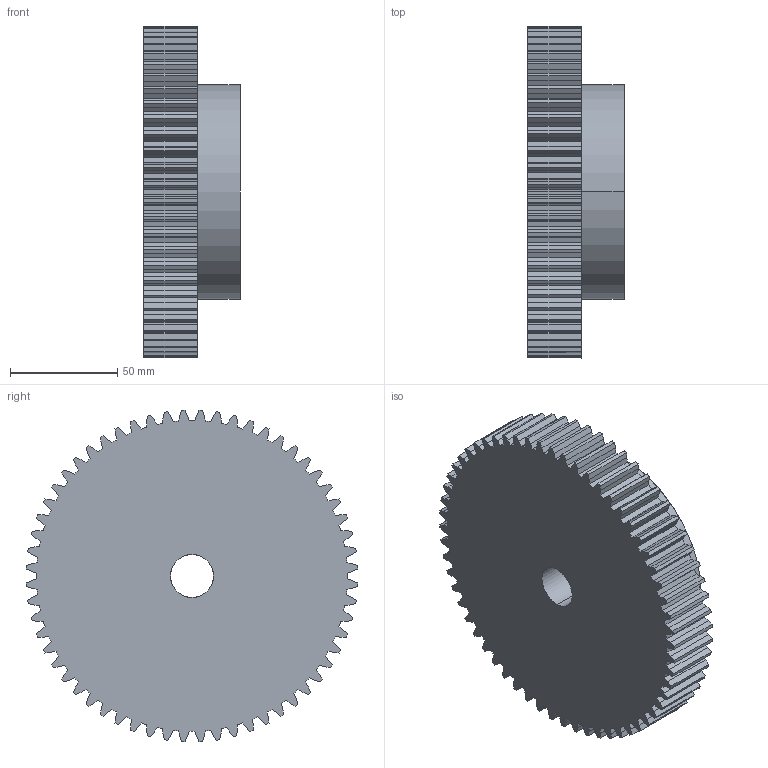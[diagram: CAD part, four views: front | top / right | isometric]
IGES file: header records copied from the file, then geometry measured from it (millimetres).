
Start section: SolidWorks IGES file using analytic representation for surfaces
Global section: file name: C:\Users\Honza\Desktop\Matis (Hotove)\Èelní ozubená kola\PM\MODUL 2,5\PM 29060.IGS; native system: SolidWorks 2010; preprocessor: SolidWorks 2010; author: Honza; date: 130925.152357; units: millimetre
Bounding box: 45 x 154.87 x 154.87 mm (x, y, z)
Surface area: 65827.8 mm2 (no closed solid volume)
Topology: 0 solids, 0 shells, 368 faces, 2422 edges, 2422 vertices
Faces by surface type: bspline 243, revolution 125
